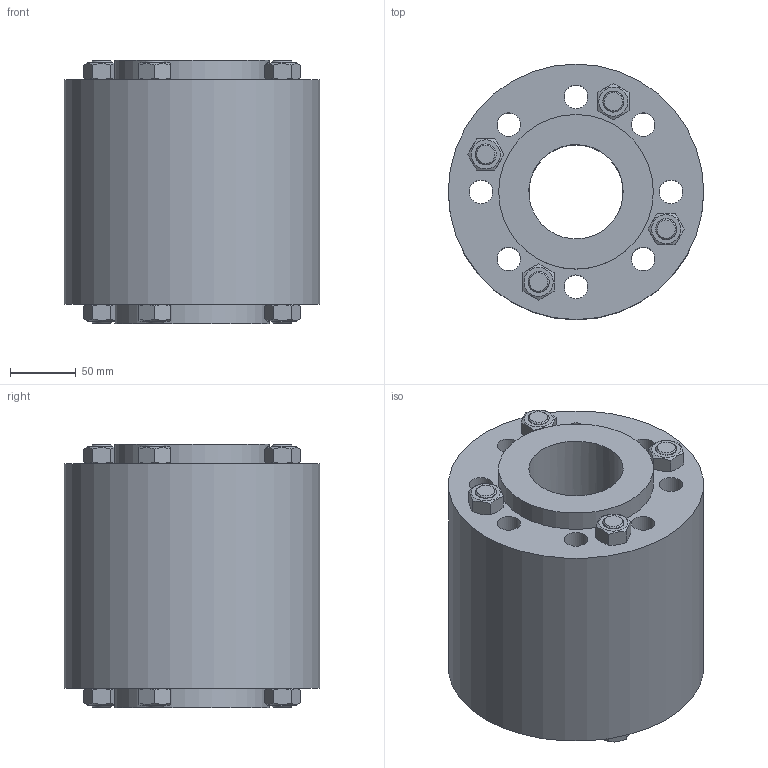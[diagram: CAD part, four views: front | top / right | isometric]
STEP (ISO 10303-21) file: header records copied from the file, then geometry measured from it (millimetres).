
FILE_DESCRIPTION(/* description */ ('ACI TYPE 620 DN65'),/* implementation_level */ '2;1');
FILE_NAME(/* name */ 'C:\Users\willms\Desktop\ACI-620-65.stp',/* time_stamp */ '2020-03-19T10:16:58+01:00',/* author */ ('götz'),/* organization */ ('ACI Industriearmaturen GmbH www.aci24.com info@aci24.com'),/* preprocessor_version */ 'ST-DEVELOPER v16.1',/* originating_system */ 'Autodesk Inventor 2016',/* authorisation */ 'ACI Industriearmaturen GmbH www.aci24.com info@aci24.com');
FILE_SCHEMA (('CONFIG_CONTROL_DESIGN'));
Length unit declared in the file: centimetre
Products named in the file (1): ACI-620-65
Bounding box: 195 x 195 x 201 mm (x, y, z)
Volume: 4321662.7 mm3; surface area: 296104.5 mm2
Topology: 1 solids, 9 shells, 144 faces, 325 edges, 209 vertices
Faces by surface type: plane 76, cone 40, cylinder 28
Full cylindrical faces by diameter (mm): 16 x16, 18 x8, 72 x1, 118 x2, 195 x1
Entity records: 3638 total; most frequent: CARTESIAN_POINT 769, DIRECTION 530, ORIENTED_EDGE 480, EDGE_LOOP 256, AXIS2_PLACEMENT_3D 241, EDGE_CURVE 240, VERTEX_POINT 192, FACE_OUTER_BOUND 144
